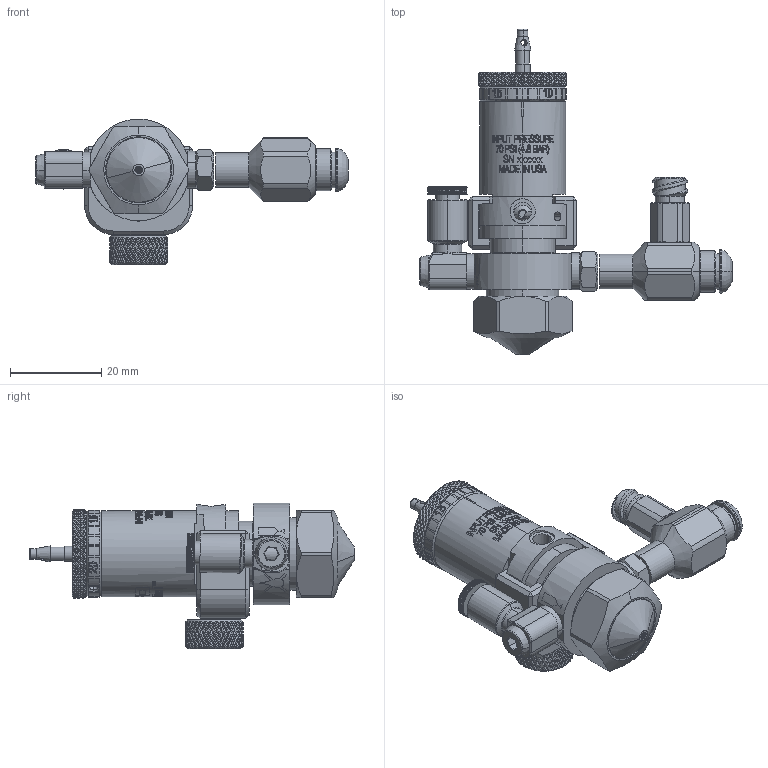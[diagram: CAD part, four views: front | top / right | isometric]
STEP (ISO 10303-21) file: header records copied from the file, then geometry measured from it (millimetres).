
FILE_DESCRIPTION (( 'STEP AP214' ), '1' );
FILE_NAME ('NORDSONEFD-7362301 VALVE SPRAY 781MINI .03 ROUND.STEP', '2019-01-02T01:15:26', ( '' ), ( '' ), 'SwSTEP 2.0', 'SolidWorks 2018', '' );
FILE_SCHEMA (( 'AUTOMOTIVE_DESIGN' ));
Length unit declared in the file: inch
Products named in the file (1): NORDSONEFD-7362301  VALVE SPRAY 781MINI .03 ROUND
Bounding box: 68.2 x 71.18 x 31.82 mm (x, y, z)
Surface area: 11669.6 mm2 (no closed solid volume)
Topology: 0 solids, 58 shells, 3107 faces, 9182 edges, 5860 vertices
Faces by surface type: bspline 1961, cylinder 729, plane 306, cone 78, torus 28, sphere 5
Entity records: 131880 total; most frequent: CARTESIAN_POINT 73004, ORIENTED_EDGE 15613, EDGE_CURVE 9179, DIRECTION 6319, VERTEX_POINT 5860, EDGE_LOOP 3239, ADVANCED_FACE 3107, FACE_OUTER_BOUND 3107
